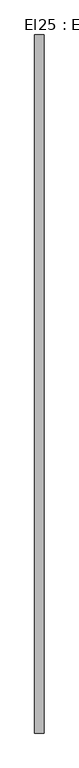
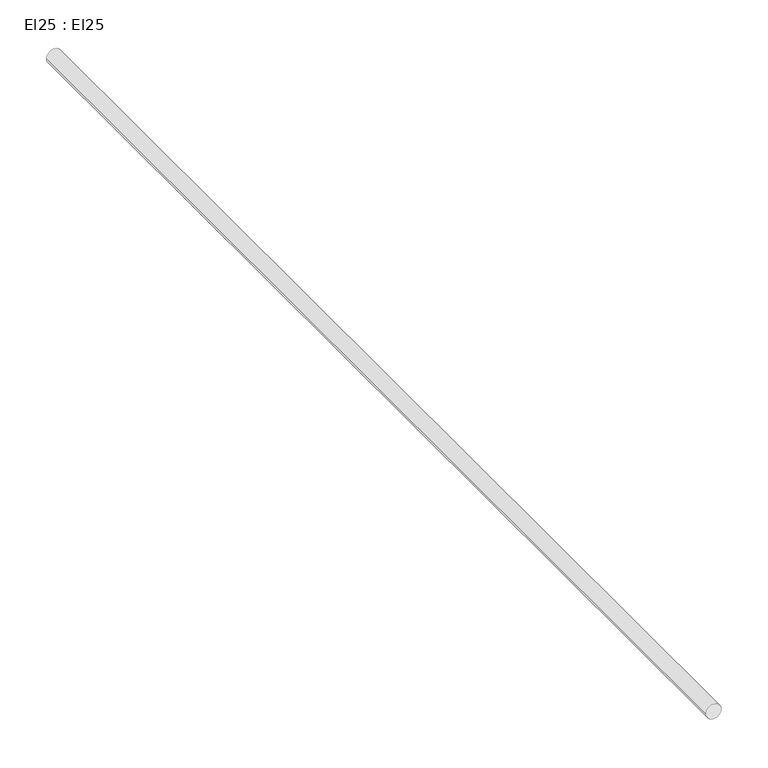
"""IFC4 building model written with IfcOpenShell, lengths in millimetres: cable carrier segment geometry, El25 : El25."""

from ifc_helpers import new_model, si_unit, point, frame, frame_2d, origin, place, context, project, spatial, circle_curve, trimmed, segment, composite_curve, outline, extrude, source, transform, mapped, element, save


def el25_el25_d9d93242(model_context):
    return source(origin(), model_context, "Body", "SweptSolid", [
        extrude(outline(composite_curve([segment(trimmed(circle_curve(frame_2d((2950.0, 2600.0)), 9.5), [point((2950.0, 2590.5))], [point((2950.0, 2609.5))], False, "CARTESIAN"), True, "CONTINUOUS"), segment(trimmed(circle_curve(frame_2d((2950.0, 2600.0)), 9.5), [point((2950.0, 2609.5))], [point((2950.0, 2590.5))], False, "CARTESIAN"), True, "CONTINUOUS")], self_intersect=False)), frame((0.0, 17646.267, 0.0), z_axis=(0.0, 1.0, 0.0), x_axis=(0.0, 0.0, 1.0)), (0.0, 0.0, 1.0), 1416.67),
    ])


if __name__ == "__main__":
    model = new_model("IFC4")
    model_context = context("Model", 3, world=origin())
    ifc_project = project(units=[si_unit("LENGTHUNIT", "METRE", prefix="MILLI")], contexts=[model_context])
    site = spatial("IfcSite", under=ifc_project)
    building = spatial("IfcBuilding", under=site)
    placement = place(None, origin())
    el25_el25_shape = el25_el25_d9d93242(model_context)
    element("IfcCableCarrierSegment", 1, ObjectType="El25 : El25", at=placement, inside=building, context=model_context, shape_type="MappedRepresentation", body=[
        mapped(el25_el25_shape, transform((0.0, 0.0, 0.0), x_axis=(1.0, 0.0, 0.0), y_axis=(0.0, 1.0, 0.0), z_axis=(0.0, 0.0, 1.0))),
    ])
    save(model, "model.ifc")
